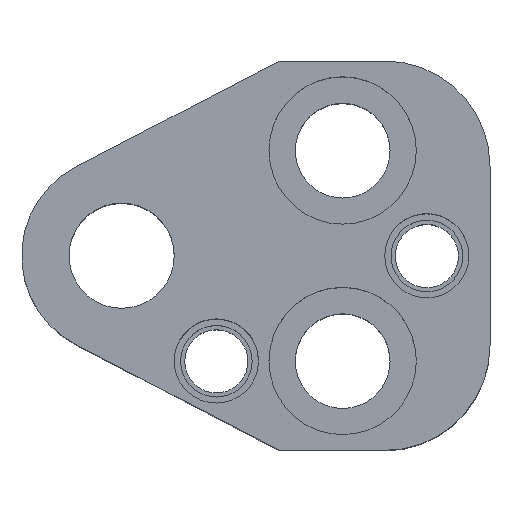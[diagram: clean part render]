
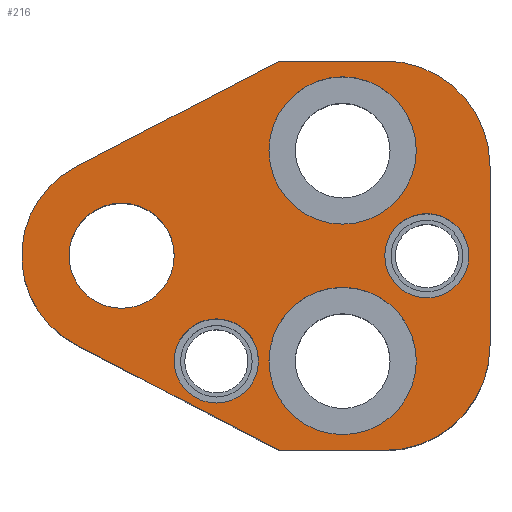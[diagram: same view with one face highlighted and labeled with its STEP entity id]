
A CAD part, top view. The second image highlights one B-rep face of the part: STEP entity #216.
In plain terms, the highlighted planar face has unit normal (0, 0, 1).
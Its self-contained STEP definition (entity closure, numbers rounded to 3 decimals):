
#104=FACE_BOUND('',#309,.T.);
#105=FACE_BOUND('',#310,.T.);
#106=FACE_BOUND('',#311,.T.);
#107=FACE_BOUND('',#312,.T.);
#108=FACE_BOUND('',#313,.T.);
#109=FACE_BOUND('',#314,.T.);
#148=CIRCLE('',#832,10.);
#150=CIRCLE('',#836,10.);
#160=CIRCLE('',#852,7.);
#162=CIRCLE('',#855,7.);
#164=CIRCLE('',#859,7.);
#166=CIRCLE('',#862,7.);
#168=CIRCLE('',#866,9.5);
#169=CIRCLE('',#867,4.);
#170=CIRCLE('',#868,4.);
#171=CIRCLE('',#869,4.);
#172=CIRCLE('',#870,4.);
#173=CIRCLE('',#871,5.);
#174=CIRCLE('',#872,5.);
#216=ADVANCED_FACE('',(#104,#105,#106,#107,#108,#109),#248,.T.);
#248=PLANE('',#873);
#309=EDGE_LOOP('',(#409,#410,#411,#412,#413,#414,#415,#416));
#310=EDGE_LOOP('',(#417,#418));
#311=EDGE_LOOP('',(#419,#420));
#312=EDGE_LOOP('',(#421,#422));
#313=EDGE_LOOP('',(#423,#424));
#314=EDGE_LOOP('',(#425,#426));
#409=ORIENTED_EDGE('',*,*,#666,.T.);
#410=ORIENTED_EDGE('',*,*,#627,.T.);
#411=ORIENTED_EDGE('',*,*,#631,.T.);
#412=ORIENTED_EDGE('',*,*,#634,.T.);
#413=ORIENTED_EDGE('',*,*,#637,.T.);
#414=ORIENTED_EDGE('',*,*,#640,.T.);
#415=ORIENTED_EDGE('',*,*,#667,.T.);
#416=ORIENTED_EDGE('',*,*,#668,.T.);
#417=ORIENTED_EDGE('',*,*,#669,.F.);
#418=ORIENTED_EDGE('',*,*,#670,.F.);
#419=ORIENTED_EDGE('',*,*,#671,.F.);
#420=ORIENTED_EDGE('',*,*,#672,.F.);
#421=ORIENTED_EDGE('',*,*,#664,.F.);
#422=ORIENTED_EDGE('',*,*,#660,.F.);
#423=ORIENTED_EDGE('',*,*,#658,.F.);
#424=ORIENTED_EDGE('',*,*,#654,.F.);
#425=ORIENTED_EDGE('',*,*,#673,.T.);
#426=ORIENTED_EDGE('',*,*,#674,.T.);
#558=VERTEX_POINT('',#1171);
#559=VERTEX_POINT('',#1173);
#562=VERTEX_POINT('',#1180);
#564=VERTEX_POINT('',#1186);
#566=VERTEX_POINT('',#1192);
#568=VERTEX_POINT('',#1198);
#577=VERTEX_POINT('',#1227);
#578=VERTEX_POINT('',#1228);
#581=VERTEX_POINT('',#1240);
#582=VERTEX_POINT('',#1241);
#585=VERTEX_POINT('',#1253);
#586=VERTEX_POINT('',#1255);
#587=VERTEX_POINT('',#1258);
#588=VERTEX_POINT('',#1259);
#589=VERTEX_POINT('',#1262);
#590=VERTEX_POINT('',#1263);
#591=VERTEX_POINT('',#1266);
#592=VERTEX_POINT('',#1267);
#627=EDGE_CURVE('',#559,#558,#731,.T.);
#631=EDGE_CURVE('',#558,#562,#148,.T.);
#634=EDGE_CURVE('',#562,#564,#736,.T.);
#637=EDGE_CURVE('',#564,#566,#150,.T.);
#640=EDGE_CURVE('',#566,#568,#740,.T.);
#654=EDGE_CURVE('',#577,#578,#160,.T.);
#658=EDGE_CURVE('',#578,#577,#162,.T.);
#660=EDGE_CURVE('',#581,#582,#164,.T.);
#664=EDGE_CURVE('',#582,#581,#166,.T.);
#666=EDGE_CURVE('',#585,#559,#750,.T.);
#667=EDGE_CURVE('',#568,#586,#751,.T.);
#668=EDGE_CURVE('',#586,#585,#168,.T.);
#669=EDGE_CURVE('',#587,#588,#169,.T.);
#670=EDGE_CURVE('',#588,#587,#170,.T.);
#671=EDGE_CURVE('',#589,#590,#171,.T.);
#672=EDGE_CURVE('',#590,#589,#172,.T.);
#673=EDGE_CURVE('',#591,#592,#173,.T.);
#674=EDGE_CURVE('',#592,#591,#174,.T.);
#731=LINE('',#1172,#781);
#736=LINE('',#1187,#786);
#740=LINE('',#1199,#790);
#750=LINE('',#1252,#800);
#751=LINE('',#1254,#801);
#781=VECTOR('',#929,1.);
#786=VECTOR('',#942,1.);
#790=VECTOR('',#954,1.);
#800=VECTOR('',#1018,1.);
#801=VECTOR('',#1019,1.);
#832=AXIS2_PLACEMENT_3D('',#1181,#935,#936);
#836=AXIS2_PLACEMENT_3D('',#1193,#947,#948);
#852=AXIS2_PLACEMENT_3D('',#1226,#986,#987);
#855=AXIS2_PLACEMENT_3D('',#1235,#994,#995);
#859=AXIS2_PLACEMENT_3D('',#1239,#1002,#1003);
#862=AXIS2_PLACEMENT_3D('',#1248,#1010,#1011);
#866=AXIS2_PLACEMENT_3D('',#1256,#1020,#1021);
#867=AXIS2_PLACEMENT_3D('',#1257,#1022,#1023);
#868=AXIS2_PLACEMENT_3D('',#1260,#1024,#1025);
#869=AXIS2_PLACEMENT_3D('',#1261,#1026,#1027);
#870=AXIS2_PLACEMENT_3D('',#1264,#1028,#1029);
#871=AXIS2_PLACEMENT_3D('',#1265,#1030,#1031);
#872=AXIS2_PLACEMENT_3D('',#1268,#1032,#1033);
#873=AXIS2_PLACEMENT_3D('',#1269,#1034,#1035);
#929=DIRECTION('',(1.,0.,0.));
#935=DIRECTION('',(0.,0.,1.));
#936=DIRECTION('',(-0.707,0.707,0.));
#942=DIRECTION('',(0.,1.,0.));
#947=DIRECTION('',(0.,0.,1.));
#948=DIRECTION('',(-0.707,-0.707,0.));
#954=DIRECTION('',(-1.,0.,0.));
#986=DIRECTION('',(0.,0.,1.));
#987=DIRECTION('',(-1.,0.,0.));
#994=DIRECTION('',(0.,0.,1.));
#995=DIRECTION('',(1.,0.,0.));
#1002=DIRECTION('',(0.,0.,1.));
#1003=DIRECTION('',(-1.,0.,0.));
#1010=DIRECTION('',(0.,0.,1.));
#1011=DIRECTION('',(1.,0.,0.));
#1018=DIRECTION('',(0.887,-0.461,0.));
#1019=DIRECTION('',(-0.887,-0.461,0.));
#1020=DIRECTION('',(0.,0.,1.));
#1021=DIRECTION('',(1.,0.,0.));
#1022=DIRECTION('',(0.,0.,1.));
#1023=DIRECTION('',(1.,0.,0.));
#1024=DIRECTION('',(0.,0.,1.));
#1025=DIRECTION('',(-1.,0.,0.));
#1026=DIRECTION('',(0.,0.,1.));
#1027=DIRECTION('',(1.,0.,0.));
#1028=DIRECTION('',(0.,0.,1.));
#1029=DIRECTION('',(-1.,0.,0.));
#1030=DIRECTION('',(0.,0.,-1.));
#1031=DIRECTION('',(-1.,0.,0.));
#1032=DIRECTION('',(0.,0.,-1.));
#1033=DIRECTION('',(1.,0.,0.));
#1034=DIRECTION('',(0.,0.,1.));
#1035=DIRECTION('',(0.887,-0.461,0.));
#1171=CARTESIAN_POINT('',(25.,-18.5,30.));
#1172=CARTESIAN_POINT('',(15.,-18.5,30.));
#1173=CARTESIAN_POINT('',(15.,-18.5,30.));
#1180=CARTESIAN_POINT('',(35.,-8.5,30.));
#1181=CARTESIAN_POINT('',(25.,-8.5,30.));
#1186=CARTESIAN_POINT('',(35.,8.5,30.));
#1187=CARTESIAN_POINT('',(35.,8.5,30.));
#1192=CARTESIAN_POINT('',(25.,18.5,30.));
#1193=CARTESIAN_POINT('',(25.,8.5,30.));
#1198=CARTESIAN_POINT('',(15.,18.5,30.));
#1199=CARTESIAN_POINT('',(15.,18.5,30.));
#1226=CARTESIAN_POINT('',(21.,-10.,30.));
#1227=CARTESIAN_POINT('',(21.,-17.,30.));
#1228=CARTESIAN_POINT('',(21.,-3.,30.));
#1235=CARTESIAN_POINT('',(21.,-10.,30.));
#1239=CARTESIAN_POINT('',(21.,10.,30.));
#1240=CARTESIAN_POINT('',(21.,3.,30.));
#1241=CARTESIAN_POINT('',(21.,17.,30.));
#1248=CARTESIAN_POINT('',(21.,10.,30.));
#1252=CARTESIAN_POINT('',(15.,-18.5,30.));
#1253=CARTESIAN_POINT('',(-4.38,-8.43,30.));
#1254=CARTESIAN_POINT('',(15.,18.5,30.));
#1255=CARTESIAN_POINT('',(-4.38,8.43,30.));
#1256=CARTESIAN_POINT('',(0.,0.,30.));
#1257=CARTESIAN_POINT('',(29.,0.,30.));
#1258=CARTESIAN_POINT('',(29.,4.,30.));
#1259=CARTESIAN_POINT('',(29.,-4.,30.));
#1260=CARTESIAN_POINT('',(29.,0.,30.));
#1261=CARTESIAN_POINT('',(9.,-10.,30.));
#1262=CARTESIAN_POINT('',(9.,-6.,30.));
#1263=CARTESIAN_POINT('',(9.,-14.,30.));
#1264=CARTESIAN_POINT('',(9.,-10.,30.));
#1265=CARTESIAN_POINT('',(0.,0.,30.));
#1266=CARTESIAN_POINT('',(0.,5.,30.));
#1267=CARTESIAN_POINT('',(0.,-5.,30.));
#1268=CARTESIAN_POINT('',(0.,0.,30.));
#1269=CARTESIAN_POINT('',(-4.38,-8.43,30.));
